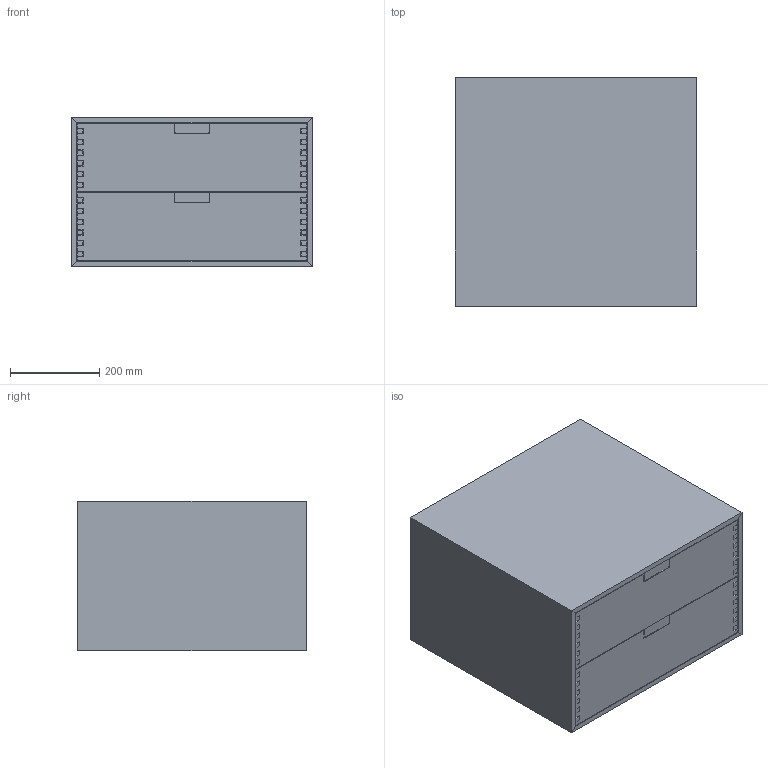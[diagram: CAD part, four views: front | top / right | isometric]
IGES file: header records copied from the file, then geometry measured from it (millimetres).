
Start section: Data from Parasolid IGES Translator 19.0.9, Copyright(c) 2006 Siemens PL M Software. All Rights Reserved.
Global section: file name: noorth-FJ-H 33,5 D 51,2 W 54_6704.igs; native system: By Siemens PLM Incorporated; preprocessor: XPlus GENERIC/IGES 19.0.9; author: Noname; organization: Noname; date: 20200507.120253; units: metre
Bounding box: 540 x 512 x 335 mm (x, y, z)
Volume: 15157273.6 mm3; surface area: 2592273.6 mm2
Topology: 33 solids, 33 shells, 350 faces, 836 edges, 552 vertices
Faces by surface type: plane 330, cylinder 20
